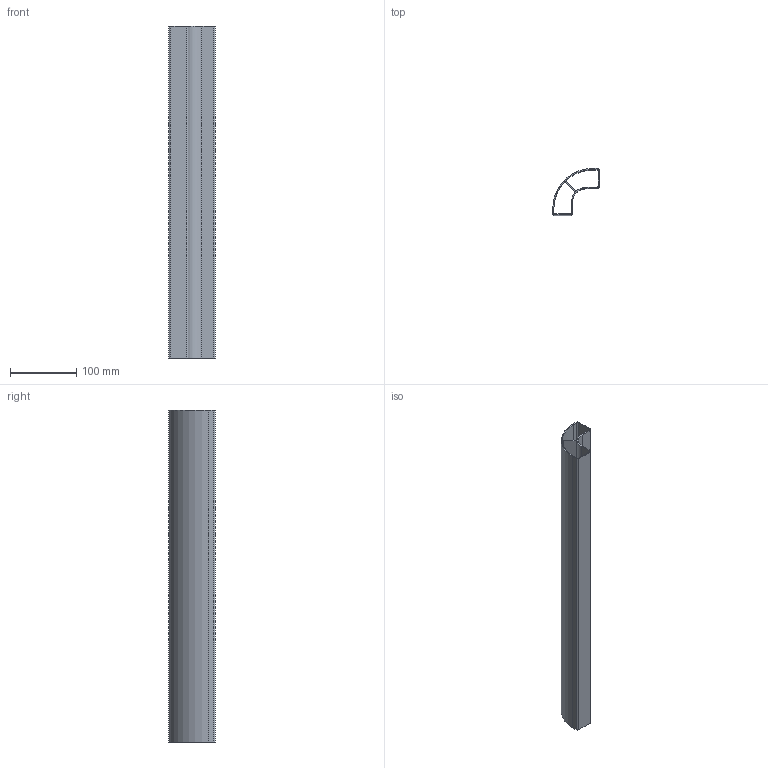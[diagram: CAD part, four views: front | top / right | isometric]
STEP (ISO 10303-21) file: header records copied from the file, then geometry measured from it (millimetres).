
FILE_DESCRIPTION (( 'STEP AP214' ), '1' );
FILE_NAME ('A40765.step', '2024-12-03T16:12:41', ( '' ), ( '' ), 'SwSTEP 2.0', 'SolidWorks 2023', '' );
FILE_SCHEMA (( 'AUTOMOTIVE_DESIGN' ));
Length unit declared in the file: millimetre
Products named in the file (1): A40765
Bounding box: 70 x 70 x 500 mm (x, y, z)
Volume: 220484.9 mm3; surface area: 255389.9 mm2
Topology: 1 solids, 1 shells, 34 faces, 96 edges, 64 vertices
Faces by surface type: cylinder 18, plane 16
Entity records: 1147 total; most frequent: DIRECTION 202, CARTESIAN_POINT 195, ORIENTED_EDGE 192, EDGE_CURVE 96, AXIS2_PLACEMENT_3D 71, VERTEX_POINT 64, LINE 60, VECTOR 60
